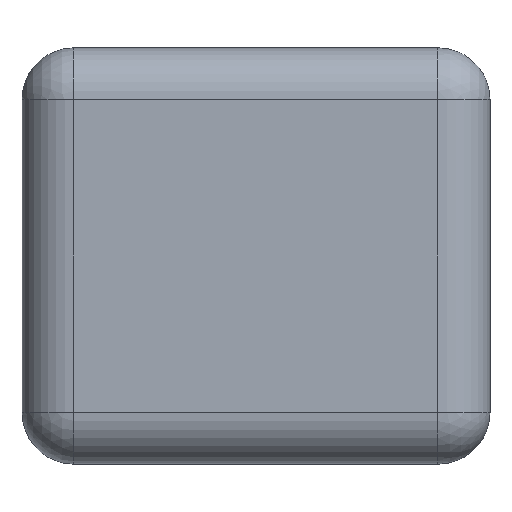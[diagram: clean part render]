
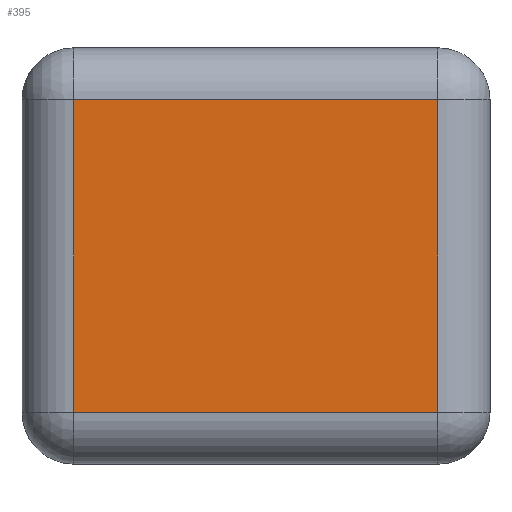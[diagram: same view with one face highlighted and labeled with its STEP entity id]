
A CAD part, left-side view. The second image highlights one B-rep face of the part: STEP entity #395.
In plain terms, the highlighted planar face has unit normal (-1, 0, 0).
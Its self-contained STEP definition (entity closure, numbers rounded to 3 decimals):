
#26 = CARTESIAN_POINT ( 'NONE',  ( -0.8, 0.1, -0.3 ) ) ;
#27 = VERTEX_POINT ( 'NONE', #26 ) ;
#242 = CARTESIAN_POINT ( 'NONE',  ( -0.8, 0.8, 0.301 ) ) ;
#243 = VERTEX_POINT ( 'NONE', #242 ) ;
#360 = CARTESIAN_POINT ( 'NONE',  ( -0.8, 0.1, 0.301 ) ) ;
#361 = VERTEX_POINT ( 'NONE', #360 ) ;
#362 = CARTESIAN_POINT ( 'NONE',  ( -0.8, 0.9, 0.301 ) ) ;
#363 = DIRECTION ( 'NONE',  ( 0., 1., 0. ) ) ;
#364 = VECTOR ( 'NONE', #363, 1000. ) ;
#365 = LINE ( 'NONE', #362, #364 ) ;
#366 = EDGE_CURVE ( 'NONE', #361, #243, #365, .T. ) ;
#367 = ORIENTED_EDGE ( 'NONE', *, *, #366, .T. ) ;
#368 = CARTESIAN_POINT ( 'NONE',  ( -0.8, 0.8, -0.3 ) ) ;
#369 = VERTEX_POINT ( 'NONE', #368 ) ;
#370 = CARTESIAN_POINT ( 'NONE',  ( -0.8, 0.8, -0.4 ) ) ;
#371 = DIRECTION ( 'NONE',  ( 0., 0., -1. ) ) ;
#372 = VECTOR ( 'NONE', #371, 1000. ) ;
#373 = LINE ( 'NONE', #370, #372 ) ;
#374 = EDGE_CURVE ( 'NONE', #243, #369, #373, .T. ) ;
#375 = ORIENTED_EDGE ( 'NONE', *, *, #374, .T. ) ;
#376 = CARTESIAN_POINT ( 'NONE',  ( -0.8, 0., -0.3 ) ) ;
#377 = DIRECTION ( 'NONE',  ( 0., -1., 0. ) ) ;
#378 = VECTOR ( 'NONE', #377, 1000. ) ;
#379 = LINE ( 'NONE', #376, #378 ) ;
#380 = EDGE_CURVE ( 'NONE', #369, #27, #379, .T. ) ;
#381 = ORIENTED_EDGE ( 'NONE', *, *, #380, .T. ) ;
#382 = CARTESIAN_POINT ( 'NONE',  ( -0.8, 0.1, 0.401 ) ) ;
#383 = DIRECTION ( 'NONE',  ( 0., 0., 1. ) ) ;
#384 = VECTOR ( 'NONE', #383, 1000. ) ;
#385 = LINE ( 'NONE', #382, #384 ) ;
#386 = EDGE_CURVE ( 'NONE', #27, #361, #385, .T. ) ;
#387 = ORIENTED_EDGE ( 'NONE', *, *, #386, .T. ) ;
#388 = EDGE_LOOP ( 'NONE', ( #367, #375, #381, #387 ) ) ;
#389 = FACE_OUTER_BOUND ( 'NONE', #388, .T. ) ;
#390 = CARTESIAN_POINT ( 'NONE',  ( -0.8, 0., 0. ) ) ;
#391 = DIRECTION ( 'NONE',  ( -1., 0., 0. ) ) ;
#392 = DIRECTION ( 'NONE',  ( 0., 0., 1. ) ) ;
#393 = AXIS2_PLACEMENT_3D ( 'NONE', #390, #391, #392 ) ;
#394 = PLANE ( 'NONE', #393 ) ;
#395 = ADVANCED_FACE ( 'NONE', ( #389 ), #394, .T. ) ;
